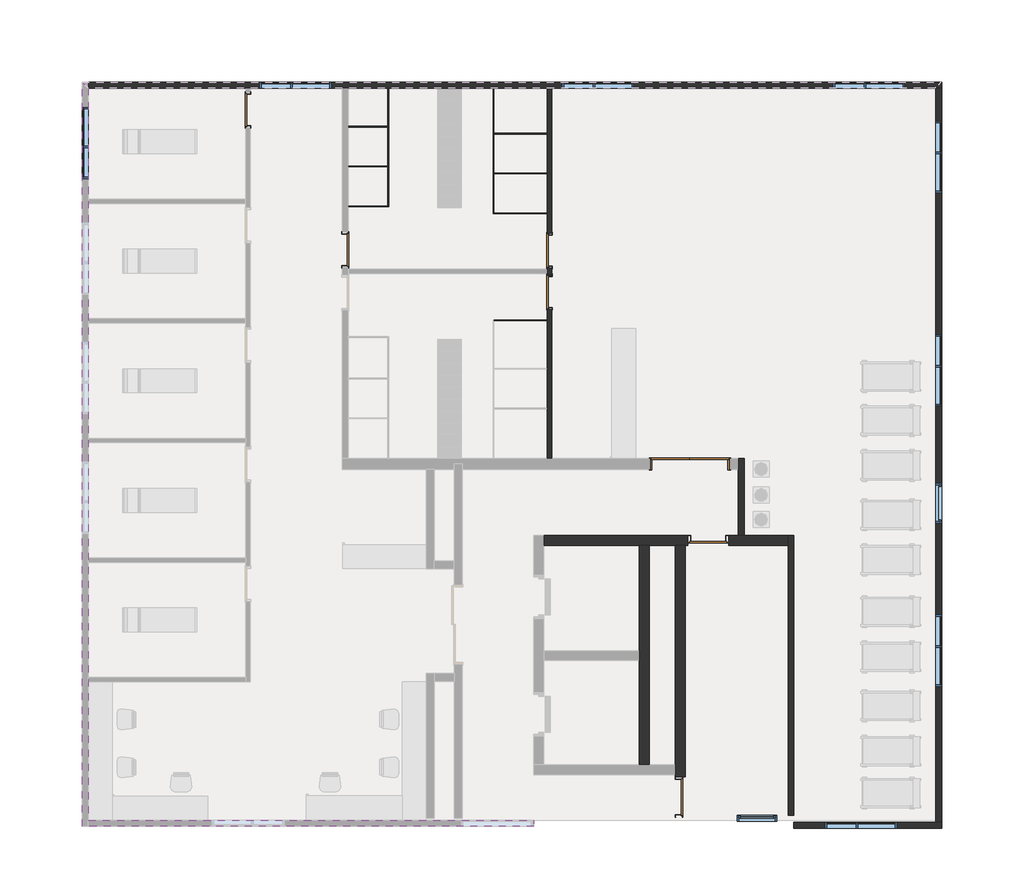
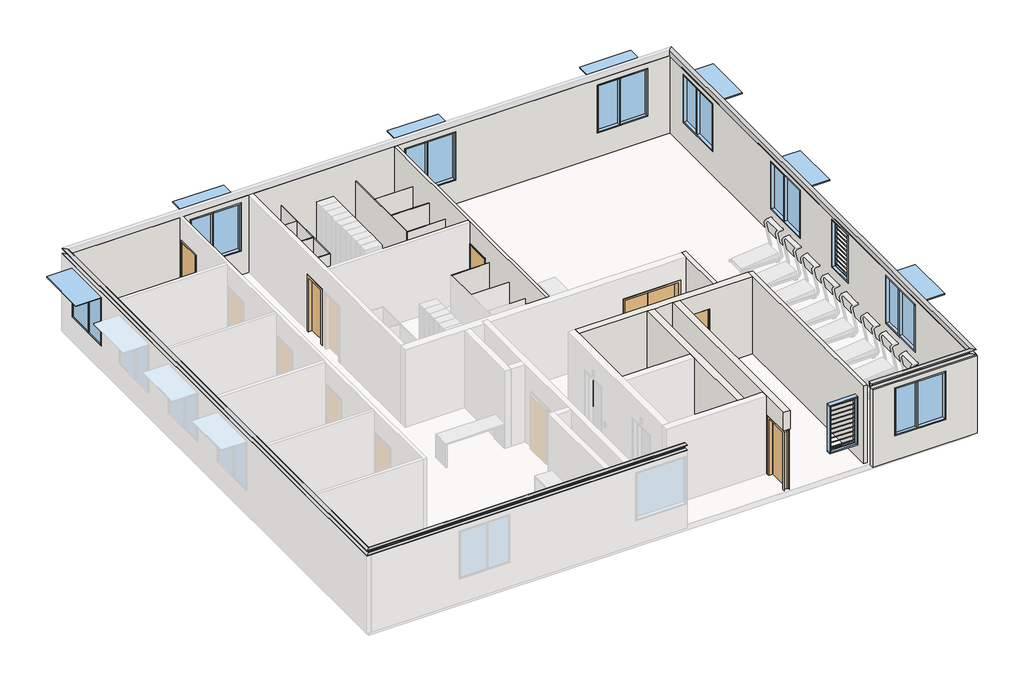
# One storey, part 2 of 3: 18 walls, 10 windows, 7 doors, 1 proxy.
"""IFC4 building model written with IfcOpenShell, lengths in millimetres."""

from ifc_helpers import new_model, si_unit, frame, origin, place, context, project, spatial, polyline, circle_curve, ellipse_curve, outline, extrude, faceted_brep, transform, mapped, element, save
from ifc_brep_helpers import plane_surface, revolved_surface, advanced_brep
from components import swing_double_metal_frame_double_2040_x_970x2_2b0cb67a, swing_metal_frame_single_dor_f6efc24d, swing_metal_frame_single_dor_15e57171, swing_metal_frame_single_dor_a031a637, swing_metal_frame_single_dor_bd4720e7, window_bottom_hung_window_bottom_hung_09912109, window_bottom_hung_window_bottom_hung_26d81d5b, window_louvre_window_louvre_92f3ddc7, window_louvre_window_louvre_105a682d

model = new_model("IFC4")

# Units and contexts
model_context = context("Model", 3, world=origin())
ifc_project = project(units=[si_unit("LENGTHUNIT", "METRE", prefix="MILLI")], contexts=[model_context])

# Site, building, storey
site = spatial("IfcSite", under=ifc_project)
building = spatial("IfcBuilding", under=site)
storey = spatial("IfcBuildingStorey", under=building, Name="6階", Elevation=45400.0)

# Proxy
placement = place(None, origin())
element("IfcBuildingElementProxy", 1, Name="Slab Edge_PFC'", ObjectType="Slab Edge_PFC'", at=placement, inside=storey, context=model_context, shape_type="AdvancedBrep", body=[
    advanced_brep(
    [(2519.6057353, 18560.0, 48500.0), (2519.6057353, 18560.0, 48300.0), (2369.6057353, 18710.0, 48300.0), (2369.6057353, 18710.0, 48312.0), (2501.6057353, 18578.0, 48312.0), (2513.6057353, 18566.0, 48324.0), (2513.6057353, 18566.0, 48476.0), (2501.6057353, 18578.0, 48488.0), (2369.6057353, 18710.0, 48488.0), (2369.6057353, 18710.0, 48500.0), (2519.6057353, 189.0898177, 48500.0), (2519.6057353, 189.0898177, 48300.0), (2369.6057353, 39.0898177, 48300.0), (2369.6057353, 39.0898177, 48312.0), (2501.6057353, 171.0898177, 48312.0), (2513.6057353, 183.0898177, 48324.0), (2513.6057353, 183.0898177, 48476.0), (2501.6057353, 171.0898177, 48488.0), (2369.6057353, 39.0898177, 48488.0), (2369.6057353, 39.0898177, 48500.0), (13694.6062665, 189.0898177, 48300.0), (13694.6062665, 189.0898177, 48500.0), (13694.6062665, 39.0898177, 48500.0), (13694.6062665, 39.0898177, 48488.0), (13694.6062665, 171.0898177, 48488.0), (13694.6062665, 183.0898177, 48476.0), (13694.6062665, 183.0898177, 48324.0), (13694.6062665, 171.0898177, 48312.0), (13694.6062665, 39.0898177, 48312.0), (13694.6062665, 39.0898177, 48300.0)],
    [
        (0, 1),
        (1, 2),
        (2, 3),
        (3, 4),
        (4, 5, ellipse_curve(frame((2501.6057353, 18578.0, 48324.0), z_axis=(-0.7071067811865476, -0.7071067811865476, 0.0), x_axis=(0.7071067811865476, -0.7071067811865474, 0.0)), 16.9705627, 12.0)),
        (5, 6),
        (6, 7, ellipse_curve(frame((2501.6057353, 18578.0, 48476.0), z_axis=(-0.7071067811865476, -0.7071067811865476, 0.0), x_axis=(0.7071067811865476, -0.7071067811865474, 0.0)), 16.9705627, 12.0)),
        (7, 8),
        (8, 9),
        (9, 0),
        (0, 10),
        (10, 11),
        (11, 1),
        (11, 12),
        (12, 2),
        (12, 13),
        (13, 3),
        (13, 14),
        (14, 4),
        (14, 15, ellipse_curve(frame((2501.6057353, 171.0898177, 48324.0), z_axis=(0.7071067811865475, -0.7071067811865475, 0.0), x_axis=(-0.7071067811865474, -0.7071067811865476, 0.0)), 16.9705627, 12.0)),
        (15, 5),
        (15, 16),
        (16, 6),
        (16, 17, ellipse_curve(frame((2501.6057353, 171.0898177, 48476.0), z_axis=(0.7071067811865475, -0.7071067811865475, 0.0), x_axis=(-0.7071067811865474, -0.7071067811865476, 0.0)), 16.9705627, 12.0)),
        (17, 7),
        (17, 18),
        (18, 8),
        (18, 19),
        (19, 9),
        (19, 10),
        (20, 21),
        (21, 22),
        (22, 23),
        (23, 24),
        (24, 25, circle_curve(frame((13694.6062665, 171.0898177, 48476.0), z_axis=(-1.0, 0.0, 0.0), x_axis=(0.0, -1.0, 0.0)), 12.0)),
        (25, 26),
        (26, 27, circle_curve(frame((13694.6062665, 171.0898177, 48324.0), z_axis=(-1.0, 0.0, 0.0), x_axis=(0.0, -1.0, 0.0)), 12.0)),
        (27, 28),
        (28, 29),
        (29, 20),
        (10, 21),
        (20, 11),
        (29, 12),
        (28, 13),
        (27, 14),
        (26, 15),
        (25, 16),
        (24, 17),
        (23, 18),
        (22, 19),
    ],
    [
        plane_surface(frame((2519.6057353, 18560.0, 48500.0), z_axis=(0.7071067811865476, 0.7071067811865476, 0.0), x_axis=(-0.7071067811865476, 0.7071067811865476, 0.0))),
        plane_surface(frame((2519.6057353, 18560.0, 48500.0), z_axis=(1.0, 0.0, 0.0), x_axis=(0.0, -1.0, 0.0))),
        plane_surface(frame((2519.6057353, 18560.0, 48300.0), z_axis=(0.0, 0.0, -1.0), x_axis=(0.0, -1.0, 0.0))),
        plane_surface(frame((2369.6057353, 18710.0, 48300.0), z_axis=(-1.0, 0.0, 0.0), x_axis=(0.0, -1.0, 0.0))),
        plane_surface(frame((2369.6057353, 18710.0, 48312.0), z_axis=(0.0, 0.0, 1.0), x_axis=(0.0, -1.0, 0.0))),
        revolved_surface(polyline([(2489.6057353, 159.08981773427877, 48324.0), (2489.6057353, 18589.999999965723, 48324.0)]), (2501.6057353, 18560.0, 48324.0), (0.0, -1.0, 0.0)),
        plane_surface(frame((2513.6057353, 18566.0, 48324.0), z_axis=(-1.0, 0.0, 0.0), x_axis=(0.0, -1.0, 0.0))),
        revolved_surface(polyline([(2489.6057353, 159.08981773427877, 48476.0), (2489.6057353, 18589.999999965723, 48476.0)]), (2501.6057353, 18560.0, 48476.0), (0.0, -1.0, 0.0)),
        plane_surface(frame((2501.6057353, 18578.0, 48488.0), z_axis=(0.0, 0.0, -1.0), x_axis=(0.0, -1.0, 0.0))),
        plane_surface(frame((2369.6057353, 18710.0, 48488.0), z_axis=(-1.0, 0.0, 0.0), x_axis=(0.0, -1.0, 0.0))),
        plane_surface(frame((2369.6057353, 18710.0, 48500.0), z_axis=(0.0, 0.0, 1.0), x_axis=(0.0, -1.0, 0.0))),
        plane_surface(frame((13694.6062665, 189.0898177, 48250.0), z_axis=(1.0, 0.0, 0.0), x_axis=(0.0, 1.0, 0.0))),
        plane_surface(frame((2519.6057353, 189.0898177, 48500.0), z_axis=(0.0, 1.0, 0.0), x_axis=(1.0, 0.0, 0.0))),
        plane_surface(frame((2519.6057353, 189.0898177, 48300.0), z_axis=(0.0, 0.0, -1.0), x_axis=(1.0, 0.0, 0.0))),
        plane_surface(frame((2369.6057353, 39.0898177, 48300.0), z_axis=(0.0, -1.0, 0.0), x_axis=(1.0, 0.0, 0.0))),
        plane_surface(frame((2369.6057353, 39.0898177, 48312.0), z_axis=(0.0, 0.0, 1.0), x_axis=(1.0, 0.0, 0.0))),
        revolved_surface(polyline([(13694.6062665, 159.0898177, 48324.0), (2489.6057353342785, 159.0898177, 48324.0)]), (2519.6057353, 171.0898177, 48324.0), (1.0, 0.0, 0.0)),
        plane_surface(frame((2513.6057353, 183.0898177, 48324.0), z_axis=(0.0, -1.0, 0.0), x_axis=(1.0, 0.0, 0.0))),
        revolved_surface(polyline([(13694.6062665, 159.0898177, 48476.0), (2489.6057353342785, 159.0898177, 48476.0)]), (2519.6057353, 171.0898177, 48476.0), (1.0, 0.0, 0.0)),
        plane_surface(frame((2501.6057353, 171.0898177, 48488.0), z_axis=(0.0, 0.0, -1.0), x_axis=(1.0, 0.0, 0.0))),
        plane_surface(frame((2369.6057353, 39.0898177, 48488.0), z_axis=(0.0, -1.0, 0.0), x_axis=(1.0, 0.0, 0.0))),
        plane_surface(frame((2369.6057353, 39.0898177, 48500.0), z_axis=(0.0, 0.0, 1.0), x_axis=(1.0, 0.0, 0.0))),
    ],
    [
        (0, [[1, 2, 3, 4, 5, 6, 7, 8, 9, 10]]),
        (1, [[-1, 11, 12, 13]]),
        (2, [[-2, -13, 14, 15]]),
        (3, [[-3, -15, 16, 17]]),
        (4, [[-4, -17, 18, 19]]),
        (5, [[-5, -19, 20, 21]]),
        (6, [[-6, -21, 22, 23]]),
        (7, [[-7, -23, 24, 25]]),
        (8, [[-8, -25, 26, 27]]),
        (9, [[-9, -27, 28, 29]]),
        (10, [[-10, -29, 30, -11]]),
        (11, [[31, 32, 33, 34, 35, 36, 37, 38, 39, 40]]),
        (12, [[-12, 41, -31, 42]]),
        (13, [[-14, -42, -40, 43]]),
        (14, [[-16, -43, -39, 44]]),
        (15, [[-18, -44, -38, 45]]),
        (16, [[-20, -45, -37, 46]]),
        (17, [[-22, -46, -36, 47]]),
        (18, [[-24, -47, -35, 48]]),
        (19, [[-26, -48, -34, 49]]),
        (20, [[-28, -49, -33, 50]]),
        (21, [[-30, -50, -32, -41]]),
    ],
),
    advanced_brep(
    [(20221.1062665, 189.0898177, 48500.0), (20221.1062665, 189.0898177, 48300.0), (20221.1062665, 39.0898177, 48300.0), (20221.1062665, 39.0898177, 48312.0), (20221.1062665, 171.0898177, 48312.0), (20221.1062665, 183.0898177, 48324.0), (20221.1062665, 183.0898177, 48476.0), (20221.1062665, 171.0898177, 48488.0), (20221.1062665, 39.0898177, 48488.0), (20221.1062665, 39.0898177, 48500.0), (23758.6171203, 189.0898177, 48500.0), (23758.6171203, 189.0898177, 48300.0), (23908.6171203, 39.0898177, 48300.0), (23908.6171203, 39.0898177, 48312.0), (23776.6171203, 171.0898177, 48312.0), (23764.6171203, 183.0898177, 48324.0), (23764.6171203, 183.0898177, 48476.0), (23776.6171203, 171.0898177, 48488.0), (23908.6171203, 39.0898177, 48488.0), (23908.6171203, 39.0898177, 48500.0), (23758.6171203, 18560.0, 48300.0), (23758.6171203, 18560.0, 48500.0), (23908.6171203, 18710.0, 48500.0), (23908.6171203, 18710.0, 48488.0), (23776.6171203, 18578.0, 48488.0), (23764.6171203, 18566.0, 48476.0), (23764.6171203, 18566.0, 48324.0), (23776.6171203, 18578.0, 48312.0), (23908.6171203, 18710.0, 48312.0), (23908.6171203, 18710.0, 48300.0)],
    [
        (0, 1),
        (1, 2),
        (2, 3),
        (3, 4),
        (4, 5, circle_curve(frame((20221.1062665, 171.0898177, 48324.0), z_axis=(1.0, 0.0, 0.0), x_axis=(0.0, -1.0, 0.0)), 12.0)),
        (5, 6),
        (6, 7, circle_curve(frame((20221.1062665, 171.0898177, 48476.0), z_axis=(1.0, 0.0, 0.0), x_axis=(0.0, -1.0, 0.0)), 12.0)),
        (7, 8),
        (8, 9),
        (9, 0),
        (0, 10),
        (10, 11),
        (11, 1),
        (11, 12),
        (12, 2),
        (12, 13),
        (13, 3),
        (13, 14),
        (14, 4),
        (14, 15, ellipse_curve(frame((23776.6171203, 171.0898177, 48324.0), z_axis=(0.7071067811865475, 0.7071067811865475, 0.0), x_axis=(0.7071067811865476, -0.7071067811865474, 0.0)), 16.9705627, 12.0)),
        (15, 5),
        (15, 16),
        (16, 6),
        (16, 17, ellipse_curve(frame((23776.6171203, 171.0898177, 48476.0), z_axis=(0.7071067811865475, 0.7071067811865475, 0.0), x_axis=(0.7071067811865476, -0.7071067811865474, 0.0)), 16.9705627, 12.0)),
        (17, 7),
        (17, 18),
        (18, 8),
        (18, 19),
        (19, 9),
        (19, 10),
        (20, 21),
        (21, 22),
        (22, 23),
        (23, 24),
        (24, 25, ellipse_curve(frame((23776.6171203, 18578.0, 48476.0), z_axis=(0.7071067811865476, -0.7071067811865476, 0.0), x_axis=(0.7071067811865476, 0.7071067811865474, 0.0)), 16.9705627, 12.0)),
        (25, 26),
        (26, 27, ellipse_curve(frame((23776.6171203, 18578.0, 48324.0), z_axis=(0.7071067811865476, -0.7071067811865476, 0.0), x_axis=(0.7071067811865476, 0.7071067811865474, 0.0)), 16.9705627, 12.0)),
        (27, 28),
        (28, 29),
        (29, 20),
        (10, 21),
        (20, 11),
        (29, 12),
        (28, 13),
        (27, 14),
        (26, 15),
        (25, 16),
        (24, 17),
        (23, 18),
        (22, 19),
    ],
    [
        plane_surface(frame((20221.1062665, 189.0898177, 48250.0), z_axis=(-1.0, 0.0, 0.0), x_axis=(0.0, 1.0, 0.0))),
        plane_surface(frame((20221.1062665, 189.0898177, 48500.0), z_axis=(0.0, 1.0, 0.0), x_axis=(1.0, 0.0, 0.0))),
        plane_surface(frame((20221.1062665, 189.0898177, 48300.0), z_axis=(0.0, 0.0, -1.0), x_axis=(1.0, 0.0, 0.0))),
        plane_surface(frame((20221.1062665, 39.0898177, 48300.0), z_axis=(0.0, -1.0, 0.0), x_axis=(1.0, 0.0, 0.0))),
        plane_surface(frame((20221.1062665, 39.0898177, 48312.0), z_axis=(0.0, 0.0, 1.0), x_axis=(1.0, 0.0, 0.0))),
        revolved_surface(polyline([(23788.617120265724, 159.0898177, 48324.0), (20221.1062665, 159.0898177, 48324.0)]), (20221.1062665, 171.0898177, 48324.0), (1.0, 0.0, 0.0)),
        plane_surface(frame((20221.1062665, 183.0898177, 48324.0), z_axis=(0.0, -1.0, 0.0), x_axis=(1.0, 0.0, 0.0))),
        revolved_surface(polyline([(23788.617120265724, 159.0898177, 48476.0), (20221.1062665, 159.0898177, 48476.0)]), (20221.1062665, 171.0898177, 48476.0), (1.0, 0.0, 0.0)),
        plane_surface(frame((20221.1062665, 171.0898177, 48488.0), z_axis=(0.0, 0.0, -1.0), x_axis=(1.0, 0.0, 0.0))),
        plane_surface(frame((20221.1062665, 39.0898177, 48488.0), z_axis=(0.0, -1.0, 0.0), x_axis=(1.0, 0.0, 0.0))),
        plane_surface(frame((20221.1062665, 39.0898177, 48500.0), z_axis=(0.0, 0.0, 1.0), x_axis=(1.0, 0.0, 0.0))),
        plane_surface(frame((23758.6171203, 18560.0, 48500.0), z_axis=(-0.7071067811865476, 0.7071067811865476, 0.0), x_axis=(-0.7071067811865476, -0.7071067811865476, 0.0))),
        plane_surface(frame((23758.6171203, 189.0898177, 48500.0), z_axis=(-1.0, 0.0, 0.0), x_axis=(0.0, 1.0, 0.0))),
        plane_surface(frame((23758.6171203, 189.0898177, 48300.0), z_axis=(0.0, 0.0, -1.0), x_axis=(0.0, 1.0, 0.0))),
        plane_surface(frame((23908.6171203, 39.0898177, 48300.0), z_axis=(1.0, 0.0, 0.0), x_axis=(0.0, 1.0, 0.0))),
        plane_surface(frame((23908.6171203, 39.0898177, 48312.0), z_axis=(0.0, 0.0, 1.0), x_axis=(0.0, 1.0, 0.0))),
        revolved_surface(polyline([(23788.6171203, 18589.999999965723, 48324.0), (23788.6171203, 159.0898177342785, 48324.0)]), (23776.6171203, 189.0898177, 48324.0), (0.0, 1.0, 0.0)),
        plane_surface(frame((23764.6171203, 183.0898177, 48324.0), z_axis=(1.0, 0.0, 0.0), x_axis=(0.0, 1.0, 0.0))),
        revolved_surface(polyline([(23788.6171203, 18589.999999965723, 48476.0), (23788.6171203, 159.0898177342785, 48476.0)]), (23776.6171203, 189.0898177, 48476.0), (0.0, 1.0, 0.0)),
        plane_surface(frame((23776.6171203, 171.0898177, 48488.0), z_axis=(0.0, 0.0, -1.0), x_axis=(0.0, 1.0, 0.0))),
        plane_surface(frame((23908.6171203, 39.0898177, 48488.0), z_axis=(1.0, 0.0, 0.0), x_axis=(0.0, 1.0, 0.0))),
        plane_surface(frame((23908.6171203, 39.0898177, 48500.0), z_axis=(0.0, 0.0, 1.0), x_axis=(0.0, 1.0, 0.0))),
    ],
    [
        (0, [[1, 2, 3, 4, 5, 6, 7, 8, 9, 10]]),
        (1, [[-1, 11, 12, 13]]),
        (2, [[-2, -13, 14, 15]]),
        (3, [[-3, -15, 16, 17]]),
        (4, [[-4, -17, 18, 19]]),
        (5, [[-5, -19, 20, 21]]),
        (6, [[-6, -21, 22, 23]]),
        (7, [[-7, -23, 24, 25]]),
        (8, [[-8, -25, 26, 27]]),
        (9, [[-9, -27, 28, 29]]),
        (10, [[-10, -29, 30, -11]]),
        (11, [[31, 32, 33, 34, 35, 36, 37, 38, 39, 40]]),
        (12, [[-12, 41, -31, 42]]),
        (13, [[-14, -42, -40, 43]]),
        (14, [[-16, -43, -39, 44]]),
        (15, [[-18, -44, -38, 45]]),
        (16, [[-20, -45, -37, 46]]),
        (17, [[-22, -46, -36, 47]]),
        (18, [[-24, -47, -35, 48]]),
        (19, [[-26, -48, -34, 49]]),
        (20, [[-28, -49, -33, 50]]),
        (21, [[-30, -50, -32, -41]]),
    ],
),
])

# Doors
swing_double_metal_frame_double_2040_x_970x2_shape = swing_double_metal_frame_double_2040_x_970x2_2b0cb67a(model_context)
element("IfcDoor", 2, ObjectType="Swing_Double : Metal Frame Double - 2040 x 970x2", at=placement, inside=storey, context=model_context, shape_type="MappedRepresentation", body=[
    mapped(swing_double_metal_frame_double_2040_x_970x2_shape, transform((17820.4954006, 9131.2680774, 45400.0), x_axis=(1.0, 0.0, 0.0), y_axis=(0.0, 1.0, 0.0), z_axis=(0.0, 0.0, 1.0))),
])
swing_metal_frame_single_dor_shape = swing_metal_frame_single_dor_f6efc24d(model_context)
element("IfcDoor", 3, ObjectType="Swing_Metal Frame_Single_DOR : 2140h x 920 (2210x1010 BLK)", at=placement, inside=storey, context=model_context, shape_type="MappedRepresentation", body=[
    mapped(swing_metal_frame_single_dor_shape, transform((17369.6062665, 770.0, 45400.0), x_axis=(0.0, 1.0, 0.0), y_axis=(-1.0, 0.0, 0.0), z_axis=(0.0, 0.0, 1.0))),
])
element("IfcDoor", 4, ObjectType="Swing_Metal Frame_Single_DOR : 2140h x 920 (2210x1010 BLK)", at=placement, inside=storey, context=model_context, shape_type="MappedRepresentation", body=[
    mapped(swing_metal_frame_single_dor_shape, transform((18069.6062665, 7210.0, 45400.0), x_axis=(1.0, 0.0, 0.0), y_axis=(0.0, 1.0, 0.0), z_axis=(0.0, 0.0, 1.0))),
])
swing_metal_frame_single_dor_2_shape = swing_metal_frame_single_dor_15e57171(model_context)
element("IfcDoor", 5, ObjectType="Swing_Metal Frame_Single_DOR : 2040h x 820 (2110x920 STUD)", at=placement, inside=storey, context=model_context, shape_type="MappedRepresentation", body=[
    mapped(swing_metal_frame_single_dor_2_shape, transform((8967.3164613, 14508.1340387, 45400.0), x_axis=(0.0, 1.0, 0.0), y_axis=(-1.0, 0.0, 0.0), z_axis=(0.0, 0.0, 1.0))),
])
swing_metal_frame_single_dor_3_shape = swing_metal_frame_single_dor_a031a637(model_context)
element("IfcDoor", 6, ObjectType="Swing_Metal Frame_Single_DOR : 2040h x 820 (2110x920 STUD)", at=placement, inside=storey, context=model_context, shape_type="MappedRepresentation", body=[
    mapped(swing_metal_frame_single_dor_3_shape, transform((6519.6057353, 18015.0, 45400.0), x_axis=(0.0, -1.0, 0.0), y_axis=(1.0, 0.0, 0.0), z_axis=(0.0, 0.0, 1.0))),
])
element("IfcDoor", 7, ObjectType="Swing_Metal Frame_Single_DOR : 2040h x 820 (2110x920 STUD)", at=placement, inside=storey, context=model_context, shape_type="MappedRepresentation", body=[
    mapped(swing_metal_frame_single_dor_3_shape, transform((14088.9954006, 13448.1340387, 45400.0), x_axis=(0.0, -1.0, 0.0), y_axis=(1.0, 0.0, 0.0), z_axis=(0.0, 0.0, 1.0))),
])
swing_metal_frame_single_dor_4_shape = swing_metal_frame_single_dor_bd4720e7(model_context)
element("IfcDoor", 8, ObjectType="Swing_Metal Frame_Single_DOR : 2040h x 820 (2110x920 STUD)", at=placement, inside=storey, context=model_context, shape_type="MappedRepresentation", body=[
    mapped(swing_metal_frame_single_dor_4_shape, transform((14088.9954006, 14488.1340387, 45400.0), x_axis=(0.0, 1.0, 0.0), y_axis=(-1.0, 0.0, 0.0), z_axis=(0.0, 0.0, 1.0))),
])

# Walls
element("IfcWall", 9, ObjectType="Whte Paint Finish", at=placement, inside=storey, context=model_context, shape_type="Brep", body=[
    faceted_brep([(20221.1062665, 309.0898177, 45400.0), (20221.1062665, 7335.0, 45400.0), (20221.1062665, 7335.0, 48300.0), (20221.1062665, 309.0898177, 48300.0), (20071.1062665, 309.0898177, 45400.0), (20071.1062665, 309.0898177, 48300.0), (20071.1062665, 7085.0, 48300.0), (20071.1062665, 7335.0, 48300.0), (20071.1062665, 7335.0, 45400.0), (20071.1062665, 7085.0, 45400.0)], [[[0, 1, 2, 3]], [[4, 5, 6, 7, 8, 9]], [[1, 0, 4, 9, 8]], [[3, 2, 7, 6, 5]], [[2, 1, 8, 7]], [[0, 3, 5, 4]]]),
])
element("IfcWall", 10, ObjectType="Whte Paint Finish", at=placement, inside=storey, context=model_context, shape_type="Brep", body=[
    faceted_brep([(18971.1062665, 7335.0, 45400.0), (18971.1062665, 9266.2680774, 45400.0), (18971.1062665, 9266.2680774, 48300.0), (18971.1062665, 7335.0, 48300.0), (18821.1062665, 7335.0, 45400.0), (18821.1062665, 7335.0, 48300.0), (18821.1062665, 8996.2680774, 48300.0), (18821.1062665, 9266.2680774, 48300.0), (18821.1062665, 9266.2680774, 45400.0), (18821.1062665, 8996.2680774, 45400.0)], [[[0, 1, 2, 3]], [[4, 5, 6, 7, 8, 9]], [[1, 0, 4, 9, 8]], [[3, 2, 7, 6, 5]], [[0, 3, 5, 4]], [[2, 1, 8, 7]]]),
])
element("IfcWall", 11, ObjectType="Whte Paint Finish", at=placement, inside=storey, context=model_context, shape_type="Brep", body=[
    faceted_brep([(2519.6057353, 18560.0, 48300.0), (6464.6057353, 18560.0, 48300.0), (6574.6057353, 18560.0, 48300.0), (8892.3164613, 18560.0, 48300.0), (9042.3164613, 18560.0, 48300.0), (14033.9954006, 18560.0, 48300.0), (14143.9954006, 18560.0, 48300.0), (23773.6171203, 18560.0, 48300.0), (23923.6171203, 18560.0, 48300.0), (23923.6171203, 18710.0, 48300.0), (2519.6057353, 18710.0, 48300.0), (6817.1904782, 18560.0, 46300.0), (8617.1904782, 18560.0, 46300.0), (8617.1904782, 18710.0, 46300.0), (6817.1904782, 18710.0, 46300.0), (8617.1904782, 18560.0, 48100.0), (8617.1904782, 18710.0, 48100.0), (6817.1904782, 18560.0, 48100.0), (6817.1904782, 18710.0, 48100.0), (2519.6057353, 18560.0, 45400.0), (6464.6057353, 18560.0, 45400.0), (6574.6057353, 18560.0, 45400.0), (8892.3164613, 18560.0, 45400.0), (9042.3164613, 18560.0, 45400.0), (10033.3164613, 18560.0, 45400.0), (10051.3164613, 18560.0, 45400.0), (12669.9954006, 18560.0, 45400.0), (12687.9954006, 18560.0, 45400.0), (14033.9954006, 18560.0, 45400.0), (14143.9954006, 18560.0, 45400.0), (23773.6171203, 18560.0, 45400.0), (23923.6171203, 18560.0, 45400.0), (14399.4454006, 18560.0, 46300.0), (14399.4454006, 18560.0, 48100.0), (16199.4454006, 18560.0, 48100.0), (16199.4454006, 18560.0, 46300.0), (21199.4454006, 18560.0, 46300.0), (21199.4454006, 18560.0, 48100.0), (22999.4454006, 18560.0, 48100.0), (22999.4454006, 18560.0, 46300.0), (2519.6057353, 18710.0, 45400.0), (23923.6171203, 18710.0, 45400.0), (14399.4454006, 18710.0, 46300.0), (16199.4454006, 18710.0, 46300.0), (16199.4454006, 18710.0, 48100.0), (14399.4454006, 18710.0, 48100.0), (21199.4454006, 18710.0, 46300.0), (22999.4454006, 18710.0, 46300.0), (22999.4454006, 18710.0, 48100.0), (21199.4454006, 18710.0, 48100.0)], [[[0, 1, 2, 3, 4, 5, 6, 7, 8, 9, 10]], [[11, 12, 13, 14]], [[12, 15, 16, 13]], [[15, 17, 18, 16]], [[17, 11, 14, 18]], [[19, 20, 21, 22, 23, 24, 25, 26, 27, 28, 29, 30, 31, 8, 7, 6, 5, 4, 3, 2, 1, 0], [11, 17, 15, 12], [32, 33, 34, 35], [36, 37, 38, 39]], [[40, 10, 9, 41], [14, 13, 16, 18], [42, 43, 44, 45], [46, 47, 48, 49]], [[31, 30, 29, 28, 27, 26, 25, 24, 23, 22, 21, 20, 19, 40, 41]], [[19, 0, 10, 40]], [[8, 31, 41, 9]], [[33, 32, 42, 45]], [[34, 33, 45, 44]], [[35, 34, 44, 43]], [[32, 35, 43, 42]], [[37, 36, 46, 49]], [[38, 37, 49, 48]], [[39, 38, 48, 47]], [[36, 39, 47, 46]]]),
])
element("IfcWall", 12, ObjectType="Whte Paint Finish", at=placement, inside=storey, context=model_context, shape_type="SweptSolid", body=[
    extrude(outline(polyline([(140.0, 45400.0), (140.0, 48300.0), (18560.0, 48300.0), (18560.0, 45400.0), (140.0, 45400.0)]), holes=[polyline([(17735.0, 46300.0), (17735.0, 48100.0), (15935.0, 48100.0), (15935.0, 46300.0), (17735.0, 46300.0)]), polyline([(12382.5, 46300.0), (12382.5, 48100.0), (10582.5, 48100.0), (10582.5, 46300.0), (12382.5, 46300.0)]), polyline([(5346.2680774, 46300.0), (5346.2680774, 48100.0), (3546.2680774, 48100.0), (3546.2680774, 46300.0), (5346.2680774, 46300.0)]), polyline([(8646.2738694, 46400.0), (8646.2738694, 48200.0), (7646.2738694, 48200.0), (7646.2738694, 46400.0), (8646.2738694, 46400.0)])]), frame((23773.6171203, 0.0, 0.0), z_axis=(1.0, 0.0, 0.0), x_axis=(0.0, 1.0, 0.0)), (0.0, 0.0, 1.0), 150.0),
])
element("IfcWall", 13, ObjectType="Whte Paint Finish", at=placement, inside=storey, context=model_context, shape_type="Brep", body=[
    faceted_brep([(20219.6062665, -10.0, 48300.0), (23923.6171203, -10.0, 48300.0), (23923.6171203, 140.0, 48300.0), (23773.6171203, 140.0, 48300.0), (20219.6062665, 140.0, 48300.0), (20219.6062665, -10.0, 45400.0), (23923.6171203, -10.0, 45400.0), (20999.6062665, -10.0, 46300.0), (20999.6062665, -10.0, 48100.0), (22799.6062665, -10.0, 48100.0), (22799.6062665, -10.0, 46300.0), (20219.6062665, 140.0, 45400.0), (23923.6171203, 140.0, 45400.0), (23773.6171203, 140.0, 45400.0), (20999.6062665, 140.0, 46300.0), (22799.6062665, 140.0, 46300.0), (22799.6062665, 140.0, 48100.0), (20999.6062665, 140.0, 48100.0)], [[[0, 1, 2, 3, 4]], [[5, 6, 1, 0], [7, 8, 9, 10]], [[11, 4, 3, 2, 12, 13], [14, 15, 16, 17]], [[6, 5, 11, 13, 12]], [[5, 0, 4, 11]], [[1, 6, 12, 2]], [[7, 10, 15, 14]], [[10, 9, 16, 15]], [[9, 8, 17, 16]], [[8, 7, 14, 17]]]),
])
element("IfcWall", 14, ObjectType="Brickwork_Single_110mm", at=placement, inside=storey, context=model_context, shape_type="Brep", body=[
    faceted_brep([(14033.9954006, 9266.2680774, 48300.0), (14033.9954006, 13913.1340387, 48300.0), (14033.9954006, 14023.1340387, 48300.0), (14033.9954006, 18560.0, 48300.0), (14033.9954006, 18560.0, 45400.0), (14033.9954006, 17431.1973788, 45400.0), (14033.9954006, 17413.1973788, 45400.0), (14033.9954006, 16431.1973788, 45400.0), (14033.9954006, 16413.1973788, 45400.0), (14033.9954006, 15431.1973788, 45400.0), (14033.9954006, 15413.1973788, 45400.0), (14033.9954006, 14928.1340387, 45400.0), (14033.9954006, 14928.1340387, 47490.0), (14033.9954006, 14048.1340387, 47490.0), (14033.9954006, 14048.1340387, 45400.0), (14033.9954006, 14023.1340387, 45400.0), (14033.9954006, 13913.1340387, 45400.0), (14033.9954006, 13888.1340387, 45400.0), (14033.9954006, 13888.1340387, 47490.0), (14033.9954006, 13008.1340387, 47490.0), (14033.9954006, 13008.1340387, 45400.0), (14033.9954006, 12744.0, 45400.0), (14033.9954006, 12726.0, 45400.0), (14033.9954006, 11531.1973788, 45400.0), (14033.9954006, 11513.1973788, 45400.0), (14033.9954006, 10531.1973788, 45400.0), (14033.9954006, 10513.1973788, 45400.0), (14033.9954006, 9266.2680774, 45400.0), (14143.9954006, 18560.0, 48300.0), (14143.9954006, 9266.2680774, 48300.0), (14143.9954006, 9266.2680774, 45400.0), (14143.9954006, 13008.1340387, 45400.0), (14143.9954006, 13008.1340387, 47490.0), (14143.9954006, 13888.1340387, 47490.0), (14143.9954006, 13888.1340387, 45400.0), (14143.9954006, 14048.1340387, 45400.0), (14143.9954006, 14048.1340387, 47490.0), (14143.9954006, 14928.1340387, 47490.0), (14143.9954006, 14928.1340387, 45400.0), (14143.9954006, 18560.0, 45400.0)], [[[0, 1, 2, 3, 4, 5, 6, 7, 8, 9, 10, 11, 12, 13, 14, 15, 16, 17, 18, 19, 20, 21, 22, 23, 24, 25, 26, 27]], [[28, 29, 30, 31, 32, 33, 34, 35, 36, 37, 38, 39]], [[30, 27, 26, 25, 24, 23, 22, 21, 20, 31]], [[4, 39, 38, 11, 10, 9, 8, 7, 6, 5]], [[14, 35, 34, 17, 16, 15]], [[3, 2, 1, 0, 29, 28]], [[0, 27, 30, 29]], [[4, 3, 28, 39]], [[37, 12, 11, 38]], [[12, 37, 36, 13]], [[13, 36, 35, 14]], [[19, 32, 31, 20]], [[32, 19, 18, 33]], [[33, 18, 17, 34]]]),
])
element("IfcWall", 15, ObjectType="C1 - Concrete Type 3 - 250mm", at=placement, inside=storey, context=model_context, shape_type="Brep", body=[
    faceted_brep([(16594.6062665, 1575.0, 45400.0), (16594.6062665, 7085.0, 45400.0), (16594.6062665, 7085.0, 48300.0), (16594.6062665, 1575.0, 48300.0), (16344.6062665, 1575.0, 45400.0), (16344.6062665, 1575.0, 48300.0), (16344.6062665, 4195.0, 48300.0), (16344.6062665, 4445.0, 48300.0), (16344.6062665, 7085.0, 48300.0), (16344.6062665, 7085.0, 45400.0), (16344.6062665, 4445.0, 45400.0), (16344.6062665, 4195.0, 45400.0)], [[[0, 1, 2, 3]], [[4, 5, 6, 7, 8, 9, 10, 11]], [[1, 0, 4, 11, 10, 9]], [[3, 2, 8, 7, 6, 5]], [[2, 1, 9, 8]], [[0, 3, 5, 4]]]),
])
element("IfcWall", 16, ObjectType="C1 - Concrete Type 3 - 250mm", at=placement, inside=storey, context=model_context, shape_type="Brep", body=[
    faceted_brep([(17494.6062665, 7085.0, 48300.0), (17494.6062665, 309.0898177, 48300.0), (17494.6062665, 309.0898177, 47610.0), (17494.6062665, 1280.0, 47610.0), (17494.6062665, 1280.0, 45400.0), (17494.6062665, 7085.0, 45400.0), (17244.6062665, 309.0898177, 48300.0), (17244.6062665, 1325.0, 48300.0), (17244.6062665, 1575.0, 48300.0), (17244.6062665, 7085.0, 48300.0), (17244.6062665, 7085.0, 45400.0), (17244.6062665, 1575.0, 45400.0), (17244.6062665, 1325.0, 45400.0), (17244.6062665, 1280.0, 45400.0), (17244.6062665, 1280.0, 47610.0), (17244.6062665, 309.0898177, 47610.0)], [[[0, 1, 2, 3, 4, 5]], [[6, 7, 8, 9, 10, 11, 12, 13, 14, 15]], [[10, 5, 4, 13, 12, 11]], [[1, 0, 9, 8, 7, 6]], [[3, 14, 13, 4]], [[14, 3, 2, 15]], [[0, 5, 10, 9]], [[1, 6, 15, 2]]]),
])
element("IfcWall", 17, ObjectType="C1 - Concrete Type 3 - 250mm", at=placement, inside=storey, context=model_context, shape_type="Brep", body=[
    faceted_brep([(20071.1062665, 7085.0, 48300.0), (17494.6062665, 7085.0, 48300.0), (17244.6062665, 7085.0, 48300.0), (16594.6062665, 7085.0, 48300.0), (16344.6062665, 7085.0, 48300.0), (13944.6062665, 7085.0, 48300.0), (13944.6062665, 7085.0, 45400.0), (16344.6062665, 7085.0, 45400.0), (16594.6062665, 7085.0, 45400.0), (17244.6062665, 7085.0, 45400.0), (17494.6062665, 7085.0, 45400.0), (17559.6062665, 7085.0, 45400.0), (17559.6062665, 7085.0, 47610.0), (18579.6062665, 7085.0, 47610.0), (18579.6062665, 7085.0, 45400.0), (20071.1062665, 7085.0, 45400.0), (13944.6062665, 7335.0, 48300.0), (18821.1062665, 7335.0, 48300.0), (18971.1062665, 7335.0, 48300.0), (20071.1062665, 7335.0, 48300.0), (20071.1062665, 7335.0, 45400.0), (18971.1062665, 7335.0, 45400.0), (18821.1062665, 7335.0, 45400.0), (18579.6062665, 7335.0, 45400.0), (18579.6062665, 7335.0, 47610.0), (17559.6062665, 7335.0, 47610.0), (17559.6062665, 7335.0, 45400.0), (13944.6062665, 7335.0, 45400.0)], [[[0, 1, 2, 3, 4, 5, 6, 7, 8, 9, 10, 11, 12, 13, 14, 15]], [[16, 17, 18, 19, 20, 21, 22, 23, 24, 25, 26, 27]], [[6, 27, 26, 11, 10, 9, 8, 7]], [[20, 15, 14, 23, 22, 21]], [[5, 4, 3, 2, 1, 0, 19, 18, 17, 16]], [[13, 24, 23, 14]], [[24, 13, 12, 25]], [[25, 12, 11, 26]], [[6, 5, 16, 27]], [[0, 15, 20, 19]]]),
])
element("IfcWall", 18, ObjectType="Toilet Partition_18mm", at=placement, inside=storey, context=model_context, shape_type="SweptSolid", body=[
    extrude(outline(polyline([(10033.3164613, 17591.0), (9042.3164613, 17591.0), (9042.3164613, 17609.0), (10033.3164613, 17609.0), (10033.3164613, 17591.0)])), frame((0.0, 0.0, 45400.0), z_axis=(0.0, 0.0, 1.0), x_axis=(1.0, 0.0, 0.0)), (0.0, 0.0, 1.0), 2100.0),
])
element("IfcWall", 19, ObjectType="Toilet Partition_18mm", at=placement, inside=storey, context=model_context, shape_type="Brep", body=[
    faceted_brep([(9042.3164613, 15591.0, 45400.0), (10051.3164613, 15591.0, 45400.0), (10051.3164613, 15591.0, 47500.0), (9042.3164613, 15591.0, 47500.0), (9042.3164613, 15609.0, 45400.0), (9042.3164613, 15609.0, 47500.0), (10033.3164613, 15609.0, 47500.0), (10051.3164613, 15609.0, 47500.0), (10051.3164613, 15609.0, 45400.0), (10033.3164613, 15609.0, 45400.0)], [[[0, 1, 2, 3]], [[4, 5, 6, 7, 8, 9]], [[1, 0, 4, 9, 8]], [[3, 2, 7, 6, 5]], [[0, 3, 5, 4]], [[2, 1, 8, 7]]]),
])
element("IfcWall", 20, ObjectType="Toilet Partition_18mm", at=placement, inside=storey, context=model_context, shape_type="SweptSolid", body=[
    extrude(outline(polyline([(10033.3164613, 16591.0), (9042.3164613, 16591.0), (9042.3164613, 16609.0), (10033.3164613, 16609.0), (10033.3164613, 16591.0)])), frame((0.0, 0.0, 45400.0), z_axis=(0.0, 0.0, 1.0), x_axis=(1.0, 0.0, 0.0)), (0.0, 0.0, 1.0), 2100.0),
])
element("IfcWall", 21, ObjectType="Toilet Partition_18mm", at=placement, inside=storey, context=model_context, shape_type="SweptSolid", body=[
    extrude(outline(polyline([(14033.9954006, 17413.1973788), (12687.9954006, 17413.1973788), (12687.9954006, 17431.1973788), (14033.9954006, 17431.1973788), (14033.9954006, 17413.1973788)])), frame((0.0, 0.0, 45400.0), z_axis=(0.0, 0.0, 1.0), x_axis=(1.0, 0.0, 0.0)), (0.0, 0.0, 1.0), 2100.0),
])
element("IfcWall", 22, ObjectType="Toilet Partition_18mm", at=placement, inside=storey, context=model_context, shape_type="Brep", body=[
    faceted_brep([(12669.9954006, 15413.1973788, 45400.0), (14033.9954006, 15413.1973788, 45400.0), (14033.9954006, 15413.1973788, 47500.0), (12669.9954006, 15413.1973788, 47500.0), (12669.9954006, 15431.1973788, 45400.0), (12669.9954006, 15431.1973788, 47500.0), (12687.9954006, 15431.1973788, 47500.0), (14033.9954006, 15431.1973788, 47500.0), (14033.9954006, 15431.1973788, 45400.0), (12687.9954006, 15431.1973788, 45400.0)], [[[0, 1, 2, 3]], [[4, 5, 6, 7, 8, 9]], [[1, 0, 4, 9, 8]], [[3, 2, 7, 6, 5]], [[2, 1, 8, 7]], [[0, 3, 5, 4]]]),
])
element("IfcWall", 23, ObjectType="Toilet Partition_18mm", at=placement, inside=storey, context=model_context, shape_type="SweptSolid", body=[
    extrude(outline(polyline([(14033.9954006, 16413.1973788), (12687.9954006, 16413.1973788), (12687.9954006, 16431.1973788), (14033.9954006, 16431.1973788), (14033.9954006, 16413.1973788)])), frame((0.0, 0.0, 45400.0), z_axis=(0.0, 0.0, 1.0), x_axis=(1.0, 0.0, 0.0)), (0.0, 0.0, 1.0), 2100.0),
])
element("IfcWall", 24, ObjectType="Toilet Partition_18mm", at=placement, inside=storey, context=model_context, shape_type="Brep", body=[
    faceted_brep([(12687.9954006, 15431.1973788, 45400.0), (12687.9954006, 16413.1973788, 45400.0), (12687.9954006, 16431.1973788, 45400.0), (12687.9954006, 17413.1973788, 45400.0), (12687.9954006, 17431.1973788, 45400.0), (12687.9954006, 18560.0, 45400.0), (12687.9954006, 18560.0, 47500.0), (12687.9954006, 17431.1973788, 47500.0), (12687.9954006, 17413.1973788, 47500.0), (12687.9954006, 16431.1973788, 47500.0), (12687.9954006, 16413.1973788, 47500.0), (12687.9954006, 15431.1973788, 47500.0), (12669.9954006, 15431.1973788, 45400.0), (12669.9954006, 15431.1973788, 47500.0), (12669.9954006, 18560.0, 47500.0), (12669.9954006, 18560.0, 45400.0)], [[[0, 1, 2, 3, 4, 5, 6, 7, 8, 9, 10, 11]], [[12, 13, 14, 15]], [[5, 4, 3, 2, 1, 0, 12, 15]], [[11, 10, 9, 8, 7, 6, 14, 13]], [[0, 11, 13, 12]], [[6, 5, 15, 14]]]),
])
element("IfcWall", 25, ObjectType="Toilet Partition_18mm", at=placement, inside=storey, context=model_context, shape_type="Brep", body=[
    faceted_brep([(10051.3164613, 15609.0, 45400.0), (10051.3164613, 18560.0, 45400.0), (10051.3164613, 18560.0, 47500.0), (10051.3164613, 15609.0, 47500.0), (10033.3164613, 15609.0, 45400.0), (10033.3164613, 15609.0, 47500.0), (10033.3164613, 16591.0, 47500.0), (10033.3164613, 16609.0, 47500.0), (10033.3164613, 17591.0, 47500.0), (10033.3164613, 17609.0, 47500.0), (10033.3164613, 18560.0, 47500.0), (10033.3164613, 18560.0, 45400.0), (10033.3164613, 17609.0, 45400.0), (10033.3164613, 17591.0, 45400.0), (10033.3164613, 16609.0, 45400.0), (10033.3164613, 16591.0, 45400.0)], [[[0, 1, 2, 3]], [[4, 5, 6, 7, 8, 9, 10, 11, 12, 13, 14, 15]], [[1, 0, 4, 15, 14, 13, 12, 11]], [[3, 2, 10, 9, 8, 7, 6, 5]], [[0, 3, 5, 4]], [[2, 1, 11, 10]]]),
])
element("IfcWall", 26, ObjectType="Toilet Partition_18mm", at=placement, inside=storey, context=model_context, shape_type="SweptSolid", body=[
    extrude(outline(polyline([(14033.9954006, 12726.0), (12687.9954006, 12726.0), (12687.9954006, 12744.0), (14033.9954006, 12744.0), (14033.9954006, 12726.0)])), frame((0.0, 0.0, 45400.0), z_axis=(0.0, 0.0, 1.0), x_axis=(1.0, 0.0, 0.0)), (0.0, 0.0, 1.0), 2100.0),
])

# Windows
window_bottom_hung_window_bottom_hung_shape = window_bottom_hung_window_bottom_hung_09912109(model_context)
element("IfcWindow", 27, ObjectType="Window_Bottom Hung : Window_Bottom Hung", at=placement, inside=storey, context=model_context, shape_type="MappedRepresentation", body=[
    mapped(window_bottom_hung_window_bottom_hung_shape, transform((7717.1904782, 18635.0, 45300.0), x_axis=(1.0, 0.0, 0.0), y_axis=(0.0, 1.0, 0.0), z_axis=(0.0, 0.0, 1.0))),
])
element("IfcWindow", 28, ObjectType="Window_Bottom Hung : Window_Bottom Hung", at=placement, inside=storey, context=model_context, shape_type="MappedRepresentation", body=[
    mapped(window_bottom_hung_window_bottom_hung_shape, transform((23848.6171203, 16835.0, 45300.0), x_axis=(0.0, -1.0, 0.0), y_axis=(1.0, 0.0, 0.0), z_axis=(0.0, 0.0, 1.0))),
])
element("IfcWindow", 29, ObjectType="Window_Bottom Hung : Window_Bottom Hung", at=placement, inside=storey, context=model_context, shape_type="MappedRepresentation", body=[
    mapped(window_bottom_hung_window_bottom_hung_shape, transform((23848.6171203, 11482.5, 45300.0), x_axis=(0.0, -1.0, 0.0), y_axis=(1.0, 0.0, 0.0), z_axis=(0.0, 0.0, 1.0))),
])
element("IfcWindow", 30, ObjectType="Window_Bottom Hung : Window_Bottom Hung", at=placement, inside=storey, context=model_context, shape_type="MappedRepresentation", body=[
    mapped(window_bottom_hung_window_bottom_hung_shape, transform((23848.6171203, 4446.2680774, 45300.0), x_axis=(0.0, -1.0, 0.0), y_axis=(1.0, 0.0, 0.0), z_axis=(0.0, 0.0, 1.0))),
])
element("IfcWindow", 31, ObjectType="Window_Bottom Hung : Window_Bottom Hung", at=placement, inside=storey, context=model_context, shape_type="MappedRepresentation", body=[
    mapped(window_bottom_hung_window_bottom_hung_shape, transform((2444.6057353, 17185.3166994, 45300.0), x_axis=(0.0, 1.0, 0.0), y_axis=(-1.0, 0.0, 0.0), z_axis=(0.0, 0.0, 1.0))),
])
element("IfcWindow", 32, ObjectType="Window_Bottom Hung : Window_Bottom Hung", at=placement, inside=storey, context=model_context, shape_type="MappedRepresentation", body=[
    mapped(window_bottom_hung_window_bottom_hung_shape, transform((15299.4454006, 18635.0, 45300.0), x_axis=(1.0, 0.0, 0.0), y_axis=(0.0, 1.0, 0.0), z_axis=(0.0, 0.0, 1.0))),
])
element("IfcWindow", 33, ObjectType="Window_Bottom Hung : Window_Bottom Hung", at=placement, inside=storey, context=model_context, shape_type="MappedRepresentation", body=[
    mapped(window_bottom_hung_window_bottom_hung_shape, transform((22099.4454006, 18635.0, 45300.0), x_axis=(1.0, 0.0, 0.0), y_axis=(0.0, 1.0, 0.0), z_axis=(0.0, 0.0, 1.0))),
])
window_bottom_hung_window_bottom_hung_2_shape = window_bottom_hung_window_bottom_hung_26d81d5b(model_context)
element("IfcWindow", 34, ObjectType="Window_Bottom Hung : Window_Bottom Hung", at=placement, inside=storey, context=model_context, shape_type="MappedRepresentation", body=[
    mapped(window_bottom_hung_window_bottom_hung_2_shape, transform((21899.6062665, 65.0, 45300.0), x_axis=(1.0, 0.0, 0.0), y_axis=(0.0, 1.0, 0.0), z_axis=(0.0, 0.0, 1.0))),
])
window_louvre_window_louvre_shape = window_louvre_window_louvre_92f3ddc7(model_context)
element("IfcWindow", 35, ObjectType="Window_Louvre : Window_Louvre", at=placement, inside=storey, context=model_context, shape_type="MappedRepresentation", body=[
    mapped(window_louvre_window_louvre_shape, transform((19294.6062665, 174.0898177, 45700.0), x_axis=(-1.0, 0.0, 0.0), y_axis=(0.0, -1.0, 0.0), z_axis=(0.0, 0.0, 1.0))),
])
window_louvre_window_louvre_2_shape = window_louvre_window_louvre_105a682d(model_context)
element("IfcWindow", 36, ObjectType="Window_Louvre : Window_Louvre", at=placement, inside=storey, context=model_context, shape_type="MappedRepresentation", body=[
    mapped(window_louvre_window_louvre_2_shape, transform((23848.6171203, 8146.2738694, 45800.0), x_axis=(0.0, -1.0, 0.0), y_axis=(1.0, 0.0, 0.0), z_axis=(0.0, 0.0, 1.0))),
])

save(model, "model.ifc")
